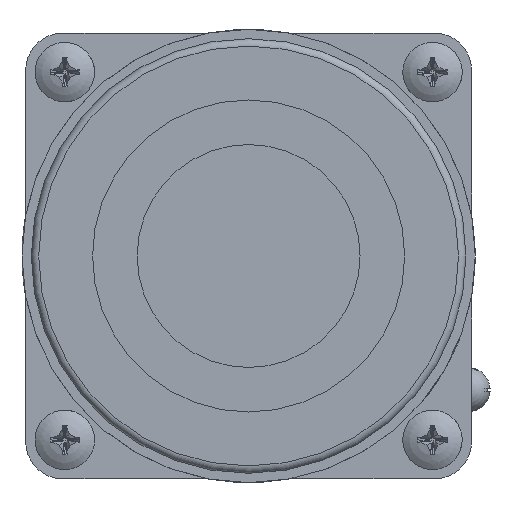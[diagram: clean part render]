
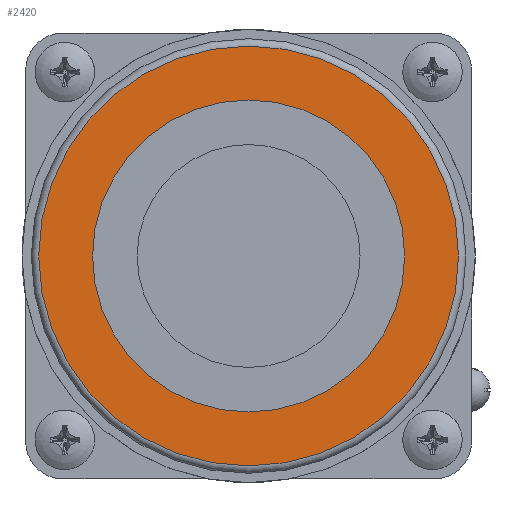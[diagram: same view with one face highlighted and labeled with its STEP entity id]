
A CAD part, left-side view. The second image highlights one B-rep face of the part: STEP entity #2420.
In plain terms, the highlighted planar face has unit normal (-1, 0, 0).
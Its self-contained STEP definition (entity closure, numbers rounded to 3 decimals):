
#2133=PLANE('',#7020);
#2420=ADVANCED_FACE('',(#2788,#2789),#2133,.T.);
#2788=FACE_BOUND('',#3202,.T.);
#2789=FACE_BOUND('',#3203,.T.);
#3202=EDGE_LOOP('',(#4359));
#3203=EDGE_LOOP('',(#4360));
#4359=ORIENTED_EDGE('',*,*,#5909,.T.);
#4360=ORIENTED_EDGE('',*,*,#5910,.T.);
#5235=VERTEX_POINT('',#10733);
#5236=VERTEX_POINT('',#10735);
#5909=EDGE_CURVE('',#5235,#5235,#6360,.T.);
#5910=EDGE_CURVE('',#5236,#5236,#6361,.T.);
#6360=CIRCLE('',#7018,28.25);
#6361=CIRCLE('',#7019,21.);
#7018=AXIS2_PLACEMENT_3D('',#10732,#8023,#8024);
#7019=AXIS2_PLACEMENT_3D('',#10734,#8025,#8026);
#7020=AXIS2_PLACEMENT_3D('',#10736,#8027,#8028);
#8023=DIRECTION('',(-1.,0.,0.));
#8024=DIRECTION('',(0.,-1.,0.));
#8025=DIRECTION('',(1.,0.,0.));
#8026=DIRECTION('',(0.,1.,0.));
#8027=DIRECTION('',(-1.,0.,0.));
#8028=DIRECTION('',(0.,-1.,0.));
#10732=CARTESIAN_POINT('',(-75.,0.,0.));
#10733=CARTESIAN_POINT('',(-75.,-28.25,0.));
#10734=CARTESIAN_POINT('',(-75.,0.,0.));
#10735=CARTESIAN_POINT('',(-75.,21.,0.));
#10736=CARTESIAN_POINT('',(-75.,0.,0.));
